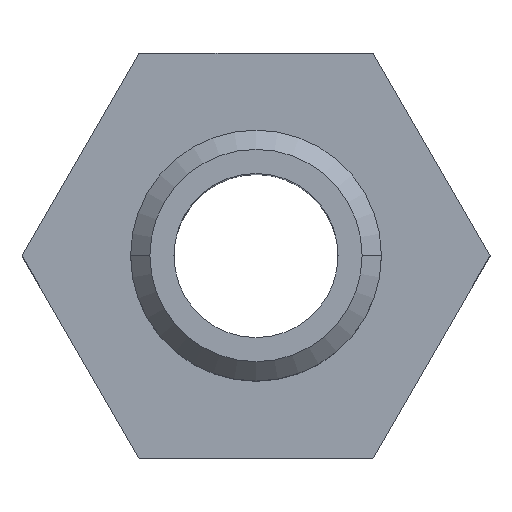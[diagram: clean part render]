
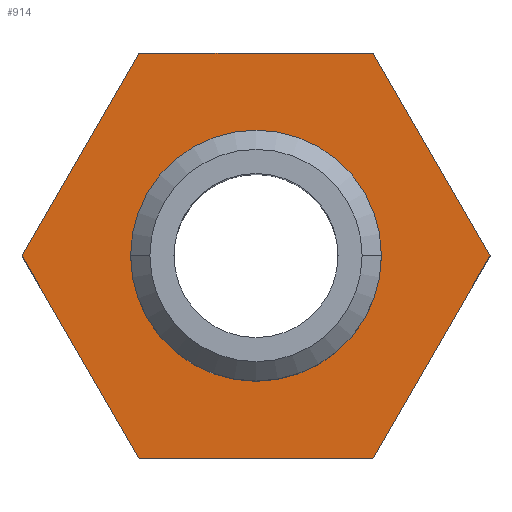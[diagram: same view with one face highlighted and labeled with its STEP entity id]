
A CAD part, top view. The second image highlights one B-rep face of the part: STEP entity #914.
In plain terms, the highlighted planar face has unit normal (0, 0, 1).
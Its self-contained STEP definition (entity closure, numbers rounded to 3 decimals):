
#2 = CARTESIAN_POINT ( 'NONE',  ( 6.062, -10.5, 6. ) ) ;
#35 = LINE ( 'NONE', #971, #168 ) ;
#40 = VERTEX_POINT ( 'NONE', #399 ) ;
#107 = CARTESIAN_POINT ( 'NONE',  ( 6.062, -10.5, 6. ) ) ;
#120 = EDGE_CURVE ( 'NONE', #264, #864, #389, .T. ) ;
#123 = EDGE_CURVE ( 'NONE', #623, #308, #727, .T. ) ;
#135 = VECTOR ( 'NONE', #270, 1000. ) ;
#143 = LINE ( 'NONE', #232, #705 ) ;
#168 = VECTOR ( 'NONE', #962, 1000. ) ;
#169 = DIRECTION ( 'NONE',  ( -0.5, -0.866, 0. ) ) ;
#205 = VERTEX_POINT ( 'NONE', #906 ) ;
#222 = ORIENTED_EDGE ( 'NONE', *, *, #588, .T. ) ;
#224 = PLANE ( 'NONE',  #443 ) ;
#232 = CARTESIAN_POINT ( 'NONE',  ( -6.062, -10.5, 6. ) ) ;
#257 = AXIS2_PLACEMENT_3D ( 'NONE', #687, #532, #685 ) ;
#264 = VERTEX_POINT ( 'NONE', #777 ) ;
#270 = DIRECTION ( 'NONE',  ( -1., 0., 0. ) ) ;
#308 = VERTEX_POINT ( 'NONE', #570 ) ;
#321 = VERTEX_POINT ( 'NONE', #699 ) ;
#352 = ORIENTED_EDGE ( 'NONE', *, *, #400, .T. ) ;
#370 = LINE ( 'NONE', #761, #135 ) ;
#389 = CIRCLE ( 'NONE', #525, 6.5 ) ;
#390 = ORIENTED_EDGE ( 'NONE', *, *, #523, .T. ) ;
#393 = CARTESIAN_POINT ( 'NONE',  ( 0., 0., 6. ) ) ;
#399 = CARTESIAN_POINT ( 'NONE',  ( 6.062, 10.5, 6. ) ) ;
#400 = EDGE_CURVE ( 'NONE', #321, #565, #143, .T. ) ;
#412 = CARTESIAN_POINT ( 'NONE',  ( -6.062, 10.5, 6. ) ) ;
#415 = DIRECTION ( 'NONE',  ( -0.5, 0.866, 0. ) ) ;
#422 = ORIENTED_EDGE ( 'NONE', *, *, #669, .F. ) ;
#443 = AXIS2_PLACEMENT_3D ( 'NONE', #1004, #614, #1008 ) ;
#453 = FACE_BOUND ( 'NONE', #972, .T. ) ;
#479 = ORIENTED_EDGE ( 'NONE', *, *, #502, .T. ) ;
#502 = EDGE_CURVE ( 'NONE', #565, #205, #722, .T. ) ;
#523 = EDGE_CURVE ( 'NONE', #205, #40, #575, .T. ) ;
#525 = AXIS2_PLACEMENT_3D ( 'NONE', #393, #955, #799 ) ;
#532 = DIRECTION ( 'NONE',  ( 0., 0., 1. ) ) ;
#563 = DIRECTION ( 'NONE',  ( 1., 0., 0. ) ) ;
#565 = VERTEX_POINT ( 'NONE', #107 ) ;
#570 = CARTESIAN_POINT ( 'NONE',  ( -12.124, 0., 6. ) ) ;
#575 = LINE ( 'NONE', #673, #1012 ) ;
#588 = EDGE_CURVE ( 'NONE', #308, #321, #35, .T. ) ;
#607 = ORIENTED_EDGE ( 'NONE', *, *, #748, .T. ) ;
#614 = DIRECTION ( 'NONE',  ( 0., 0., 1. ) ) ;
#623 = VERTEX_POINT ( 'NONE', #412 ) ;
#669 = EDGE_CURVE ( 'NONE', #864, #264, #729, .T. ) ;
#673 = CARTESIAN_POINT ( 'NONE',  ( 12.124, 0., 6. ) ) ;
#685 = DIRECTION ( 'NONE',  ( 1., 0., 0. ) ) ;
#687 = CARTESIAN_POINT ( 'NONE',  ( 0., 0., 6. ) ) ;
#691 = VECTOR ( 'NONE', #169, 1000. ) ;
#699 = CARTESIAN_POINT ( 'NONE',  ( -6.062, -10.5, 6. ) ) ;
#705 = VECTOR ( 'NONE', #563, 1000. ) ;
#722 = LINE ( 'NONE', #2, #969 ) ;
#727 = LINE ( 'NONE', #878, #691 ) ;
#729 = CIRCLE ( 'NONE', #257, 6.5 ) ;
#738 = ORIENTED_EDGE ( 'NONE', *, *, #120, .F. ) ;
#748 = EDGE_CURVE ( 'NONE', #40, #623, #370, .T. ) ;
#751 = ORIENTED_EDGE ( 'NONE', *, *, #123, .T. ) ;
#761 = CARTESIAN_POINT ( 'NONE',  ( 6.062, 10.5, 6. ) ) ;
#766 = CARTESIAN_POINT ( 'NONE',  ( 6.5, 0., 6. ) ) ;
#777 = CARTESIAN_POINT ( 'NONE',  ( -6.5, 0., 6. ) ) ;
#799 = DIRECTION ( 'NONE',  ( 1., 0., 0. ) ) ;
#821 = EDGE_LOOP ( 'NONE', ( #479, #390, #607, #751, #222, #352 ) ) ;
#855 = DIRECTION ( 'NONE',  ( 0.5, 0.866, 0. ) ) ;
#864 = VERTEX_POINT ( 'NONE', #766 ) ;
#871 = FACE_OUTER_BOUND ( 'NONE', #821, .T. ) ;
#878 = CARTESIAN_POINT ( 'NONE',  ( -6.062, 10.5, 6. ) ) ;
#906 = CARTESIAN_POINT ( 'NONE',  ( 12.124, 0., 6. ) ) ;
#914 = ADVANCED_FACE ( 'NONE', ( #453, #871 ), #224, .T. ) ;
#955 = DIRECTION ( 'NONE',  ( 0., 0., 1. ) ) ;
#962 = DIRECTION ( 'NONE',  ( 0.5, -0.866, 0. ) ) ;
#969 = VECTOR ( 'NONE', #855, 1000. ) ;
#971 = CARTESIAN_POINT ( 'NONE',  ( -12.124, 0., 6. ) ) ;
#972 = EDGE_LOOP ( 'NONE', ( #738, #422 ) ) ;
#1004 = CARTESIAN_POINT ( 'NONE',  ( 0., 0., 6. ) ) ;
#1008 = DIRECTION ( 'NONE',  ( 1., 0., 0. ) ) ;
#1012 = VECTOR ( 'NONE', #415, 1000. ) ;
